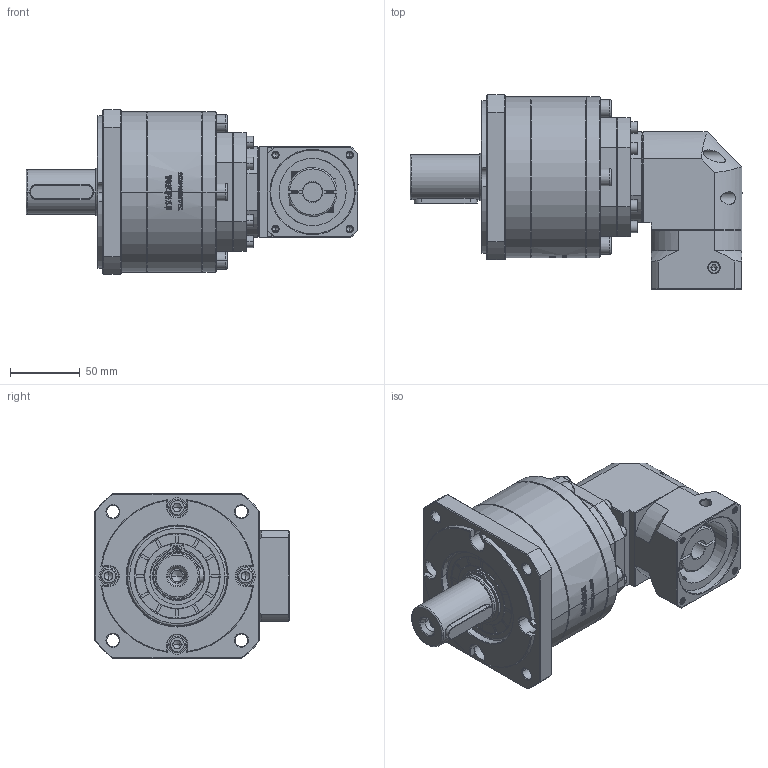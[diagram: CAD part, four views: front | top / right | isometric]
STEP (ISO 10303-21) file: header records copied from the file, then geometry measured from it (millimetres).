
FILE_DESCRIPTION (( 'STEP AP214' ), '1' );
FILE_NAME ('ZFR120A-D32-L3-14-60-75-M5.step', '2023-03-08T14:54:49', ( '' ), ( 'Microsoft' ), 'SwSTEP 2.0', 'SolidWorks 2016', '' );
FILE_SCHEMA (( 'AUTOMOTIVE_DESIGN' ));
Length unit declared in the file: millimetre
Products named in the file (1): ZFR120A-D32-L3-14-60-75-M5
Bounding box: 237.5 x 139.2 x 118 mm (x, y, z)
Volume: 1497409.4 mm3; surface area: 141414.8 mm2
Topology: 6 solids, 6 shells, 3042 faces, 8048 edges, 5162 vertices
Faces by surface type: plane 1595, bspline 637, cylinder 464, cone 346
Entity records: 162622 total; most frequent: CARTESIAN_POINT 59817, ORIENTED_EDGE 15988, DIRECTION 11811, EDGE_CURVE 7994, VERTEX_POINT 5162, LINE 5011, VECTOR 5011, AXIS2_PLACEMENT_3D 3400
